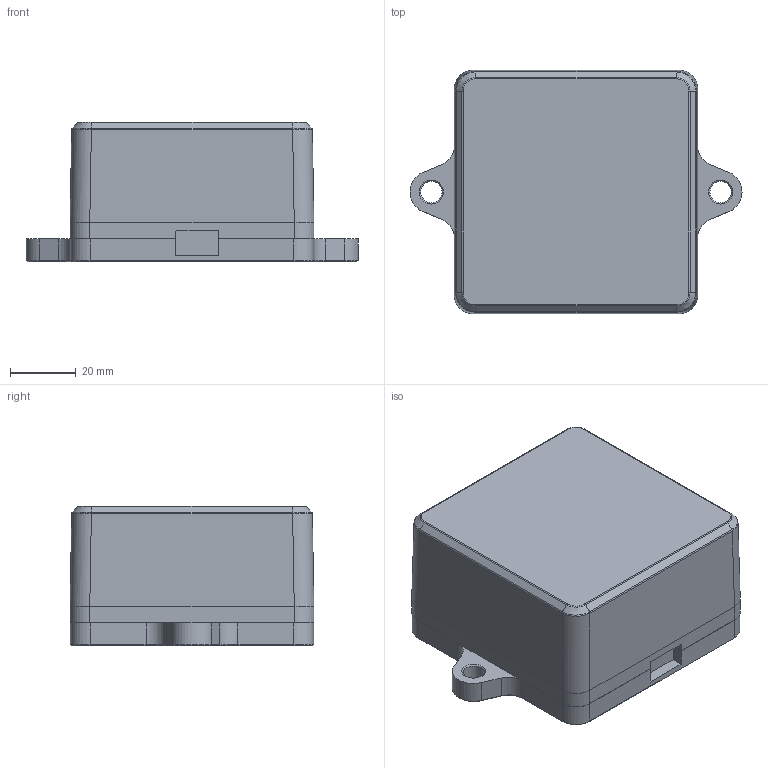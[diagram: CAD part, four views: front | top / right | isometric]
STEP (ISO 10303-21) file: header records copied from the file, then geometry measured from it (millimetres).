
FILE_DESCRIPTION(/* description */ (''),/* implementation_level */ '2;1');
FILE_NAME(/* name */ 'ACD 1000 dummy.step',/* time_stamp */ '2024-01-15T11:28:30+01:00',/* author */ (''),/* organization */ (''),/* preprocessor_version */ 'ST-DEVELOPER v20',/* originating_system */ 'Autodesk Translation Framework v12.14.0.127',/* authorisation */ '');
FILE_SCHEMA (('AUTOMOTIVE_DESIGN { 1 0 10303 214 3 1 1 }'));
Length unit declared in the file: millimetre
Products named in the file (4): ACD 1000; ACD 1000 T Base v1; ACD 1000 T Cover v1; Logo Somni v10
Assembly tree (3 placements, depth 3):
  ACD 1000
    ACD 1000 T Base v1
    ACD 1000 T Cover v1
      Logo Somni v10
Bounding box: 101 x 74.2 x 42.5 mm (x, y, z)
Volume: 94671.1 mm3; surface area: 44065.1 mm2
Topology: 1 solids, 4 shells, 304 faces, 770 edges, 467 vertices
Faces by surface type: plane 106, cylinder 81, bspline 64, cone 39, torus 12, sphere 2
Full cylindrical faces by diameter (mm): 3.332 x3, 6.5 x2
Entity records: 10575 total; most frequent: CARTESIAN_POINT 3407, ORIENTED_EDGE 1566, DIRECTION 1377, EDGE_CURVE 783, AXIS2_PLACEMENT_3D 490, VERTEX_POINT 467, LINE 397, VECTOR 397
